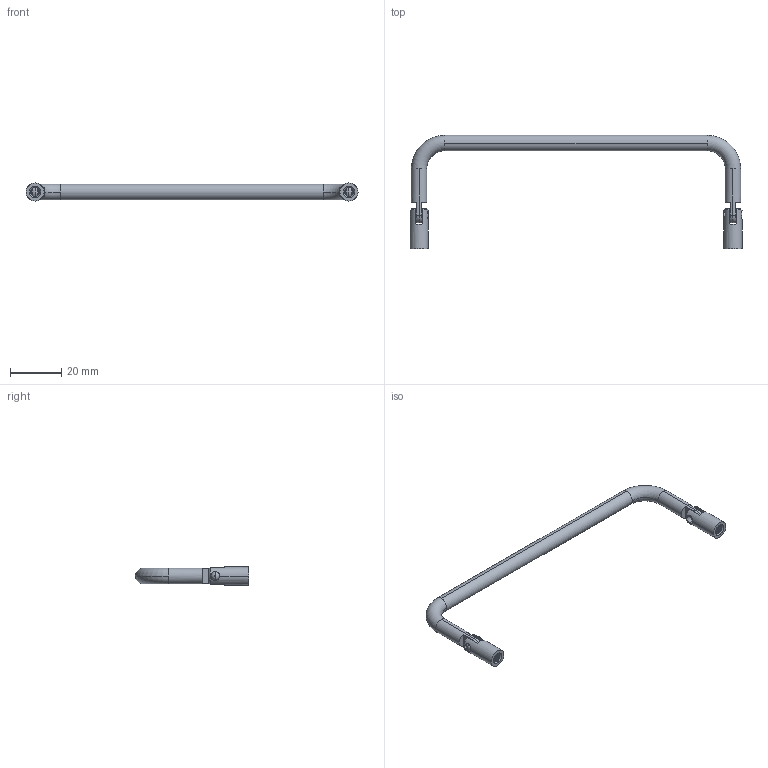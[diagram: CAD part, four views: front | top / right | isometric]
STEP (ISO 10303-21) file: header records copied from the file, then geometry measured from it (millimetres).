
FILE_DESCRIPTION (( 'STEP AP203' ), '1' );
FILE_NAME ('XG01-001-122.STEP', '2023-12-23T01:33:35', ( '' ), ( '' ), 'SwSTEP 2.0', 'SolidWorks 2020', '' );
FILE_SCHEMA (( 'CONFIG_CONTROL_DESIGN' ));
Length unit declared in the file: millimetre
Products named in the file (1): XG01-001-122
Bounding box: 129 x 44 x 7 mm (x, y, z)
Volume: 5376.9 mm3; surface area: 4691.3 mm2
Topology: 5 solids, 5 shells, 156 faces, 408 edges, 258 vertices
Faces by surface type: cylinder 86, plane 36, cone 16, torus 8, bspline 6, sphere 4
Entity records: 7817 total; most frequent: CARTESIAN_POINT 4171, ORIENTED_EDGE 816, DIRECTION 710, EDGE_CURVE 408, AXIS2_PLACEMENT_3D 285, VERTEX_POINT 258, EDGE_LOOP 168, ADVANCED_FACE 156
